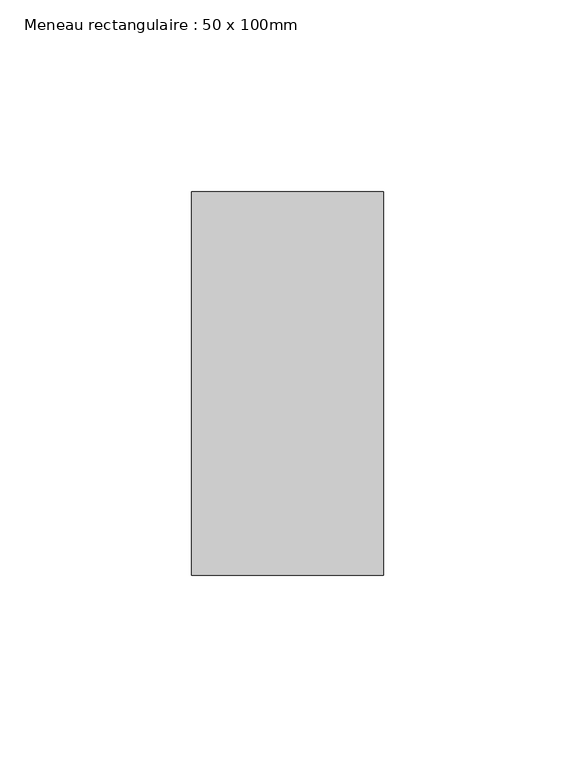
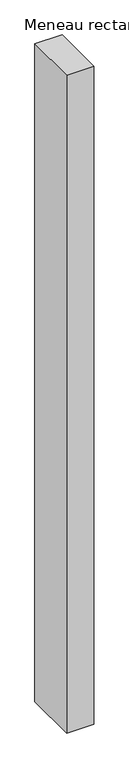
"""IFC4 building model written with IfcOpenShell, lengths in millimetres: member geometry, Meneau rectangulaire : 50 x 100mm."""

from ifc_helpers import new_model, si_unit, frame, origin, place, context, project, spatial, polyline, outline, extrude, source, transform, mapped, element, save


def meneau_rectangulaire_50_x_100mm_5e38c685(model_context):
    return source(origin(), model_context, "Body", "SweptSolid", [
        extrude(outline(polyline([(0.0, 50.0), (0.0, -50.0), (-50.0, -50.0), (-50.0, 50.0), (0.0, 50.0)])), frame((0.0, 0.0, -1269.9999999), z_axis=(0.0, 0.0, 1.0), x_axis=(1.0, 0.0, 0.0)), (0.0, 0.0, 1.0), 1269.9999999),
    ])


if __name__ == "__main__":
    model = new_model("IFC4")
    model_context = context("Model", 3, world=origin())
    ifc_project = project(units=[si_unit("LENGTHUNIT", "METRE", prefix="MILLI")], contexts=[model_context])
    site = spatial("IfcSite", under=ifc_project)
    building = spatial("IfcBuilding", under=site)
    placement = place(None, origin())
    meneau_rectangulaire_50_x_100mm_shape = meneau_rectangulaire_50_x_100mm_5e38c685(model_context)
    element("IfcMember", 1, ObjectType="Meneau rectangulaire : 50 x 100mm", at=placement, inside=building, context=model_context, shape_type="MappedRepresentation", body=[
        mapped(meneau_rectangulaire_50_x_100mm_shape, transform((0.0, 0.0, 0.0), x_axis=(1.0, 0.0, 0.0), y_axis=(0.0, 1.0, 0.0), z_axis=(0.0, 0.0, 1.0))),
    ])
    save(model, "model.ifc")
